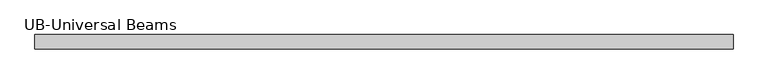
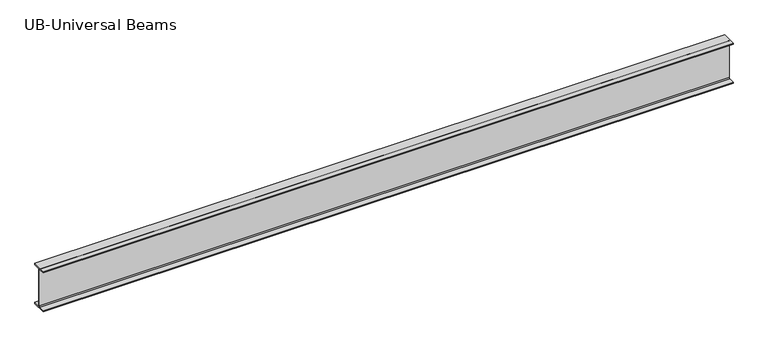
"""IFC4 building model written with IfcOpenShell, lengths in millimetres: beam geometry."""

from ifc_helpers import new_model, si_unit, point, frame, frame_2d, origin, place, context, project, spatial, polyline, circle_curve, trimmed, segment, composite_curve, outline, extrude, source, transform, mapped, element, save


def ub_universal_beams_c91190e6(model_context):
    return source(origin(), model_context, "Body", "SweptSolid", [
        extrude(outline(composite_curve([segment(polyline([(76.9, -214.0), (76.9, -229.0), (-76.9, -229.0), (-76.9, -214.0), (-14.7, -214.0)]), True, "CONTINUOUS"), segment(trimmed(circle_curve(frame_2d((-14.7, -203.8)), 10.2), [point((-14.7, -214.0))], [point((-4.5, -203.8))], True, "CARTESIAN"), True, "CONTINUOUS"), segment(polyline([(-4.5, -203.8), (-4.5, 203.8)]), True, "CONTINUOUS"), segment(trimmed(circle_curve(frame_2d((-14.7, 203.8)), 10.2), [point((-4.5, 203.8))], [point((-14.7, 214.0))], True, "CARTESIAN"), True, "CONTINUOUS"), segment(polyline([(-14.7, 214.0), (-76.9, 214.0), (-76.9, 229.0), (76.9, 229.0), (76.9, 214.0), (14.7, 214.0)]), True, "CONTINUOUS"), segment(trimmed(circle_curve(frame_2d((14.7, 203.8)), 10.2), [point((14.7, 214.0))], [point((4.5, 203.8))], True, "CARTESIAN"), True, "CONTINUOUS"), segment(polyline([(4.5, 203.8), (4.5, -203.8)]), True, "CONTINUOUS"), segment(trimmed(circle_curve(frame_2d((14.7, -203.8)), 10.2), [point((4.5, -203.8))], [point((14.7, -214.0))], True, "CARTESIAN"), True, "CONTINUOUS"), segment(polyline([(14.7, -214.0), (76.9, -214.0)]), True, "CONTINUOUS")], self_intersect=False)), frame((-3680.6, 0.0, 0.0), z_axis=(1.0, 0.0, 0.0), x_axis=(0.0, 1.0, 0.0)), (0.0, 0.0, 1.0), 7414.7),
    ])


if __name__ == "__main__":
    model = new_model("IFC4")
    model_context = context("Model", 3, world=origin())
    ifc_project = project(units=[si_unit("LENGTHUNIT", "METRE", prefix="MILLI")], contexts=[model_context])
    site = spatial("IfcSite", under=ifc_project)
    building = spatial("IfcBuilding", under=site)
    placement = place(None, origin())
    ub_universal_beams_shape = ub_universal_beams_c91190e6(model_context)
    element("IfcBeam", 1, ObjectType="UB-Universal Beams : UB 18\" x 6\" x 2 1/2\"", at=placement, inside=building, context=model_context, shape_type="MappedRepresentation", body=[
        mapped(ub_universal_beams_shape, transform((0.0, 0.0, 0.0), x_axis=(1.0, 0.0, 0.0), y_axis=(0.0, 1.0, 0.0), z_axis=(0.0, 0.0, 1.0))),
    ])
    save(model, "model.ifc")
